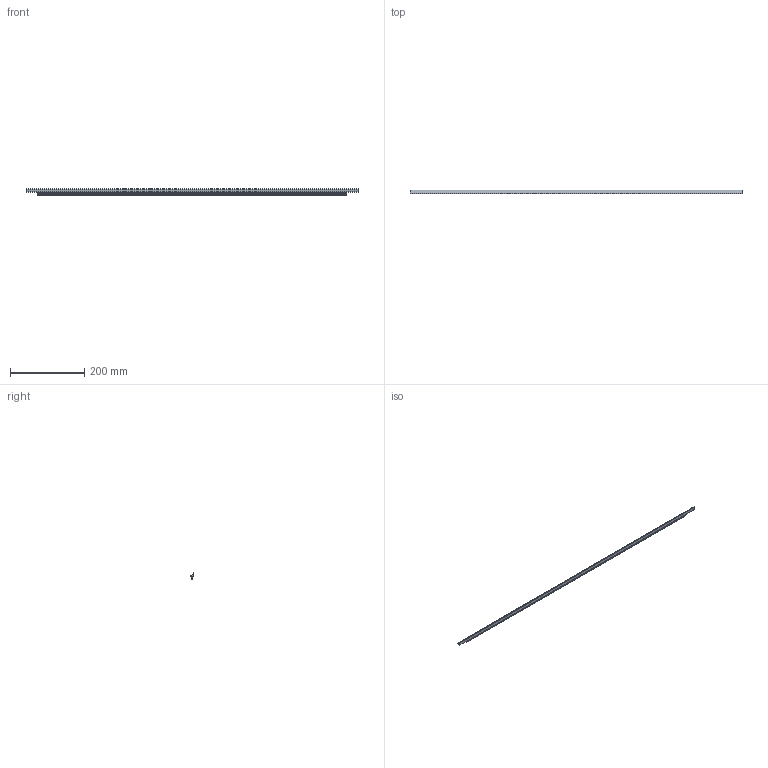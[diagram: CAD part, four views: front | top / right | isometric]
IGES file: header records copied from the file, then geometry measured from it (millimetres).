
Start section: Data from Parasolid IGES Translator 20.0.26, Copyright(c) 2006 Siemens P LM Software. All Rights Reserved.
Global section: file name: 9208103.igs; native system: By Siemens PLM Incorporated; preprocessor: XPlus GENERIC/IGES 20.0.26; author: Noname; organization: Noname; date: 20211115.182821; units: millimetre
Bounding box: 895 x 10.5 x 16.51 mm (x, y, z)
Surface area: 45541.9 mm2 (no closed solid volume)
Topology: 0 solids, 0 shells, 30 faces, 162 edges, 162 vertices
Faces by surface type: extrusion 25, revolution 5
